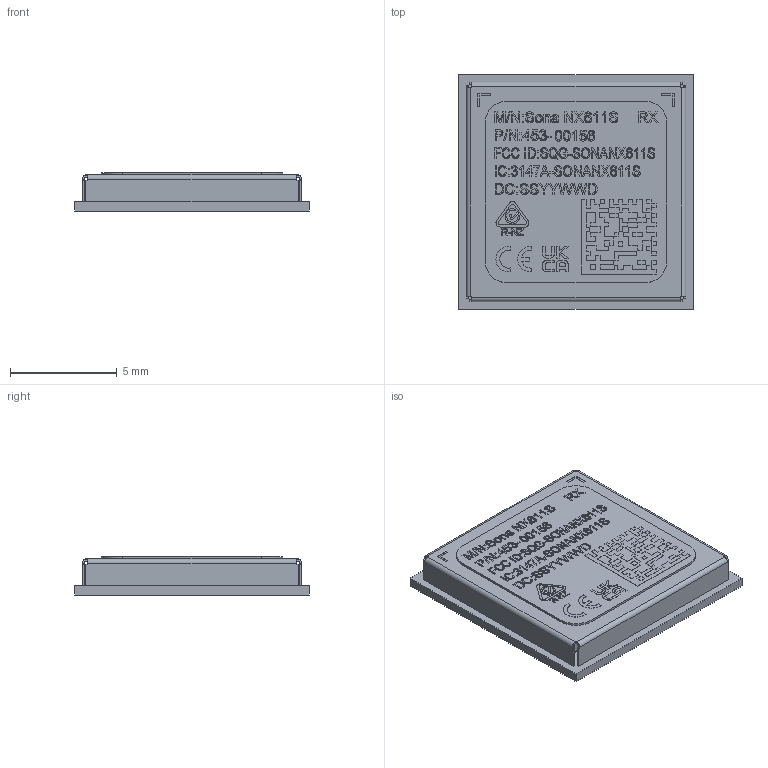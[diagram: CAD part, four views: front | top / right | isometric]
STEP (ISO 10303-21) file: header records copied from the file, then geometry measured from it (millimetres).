
FILE_DESCRIPTION (( 'STEP AP214' ), '1' );
FILE_NAME ('453-00156.STEP', '2026-05-25T10:27:04', ( '' ), ( '' ), 'SwSTEP 2.0', 'SolidWorks 2025', '' );
FILE_SCHEMA (( 'AUTOMOTIVE_DESIGN' ));
Length unit declared in the file: millimetre
Products named in the file (5): 110-00820; 940-00273; 453-00156; 160-02403_453-00156
Assembly tree (4 placements, depth 3):
  453-00156
    940-00273
      940-00273
      110-00820
    160-02403_453-00156
Bounding box: 11 x 11 x 1.8 mm (x, y, z)
Volume: 21.9 mm3; surface area: 871.2 mm2
Topology: 2 solids, 220 shells, 3892 faces, 9661 edges, 6229 vertices
Faces by surface type: plane 2743, bspline 538, cylinder 467, sphere 144
Entity records: 174398 total; most frequent: CARTESIAN_POINT 52056, ORIENTED_EDGE 18591, DIRECTION 14991, EDGE_CURVE 9517, LINE 6593, VECTOR 6593, VERTEX_POINT 6229, AXIS2_PLACEMENT_3D 4199
